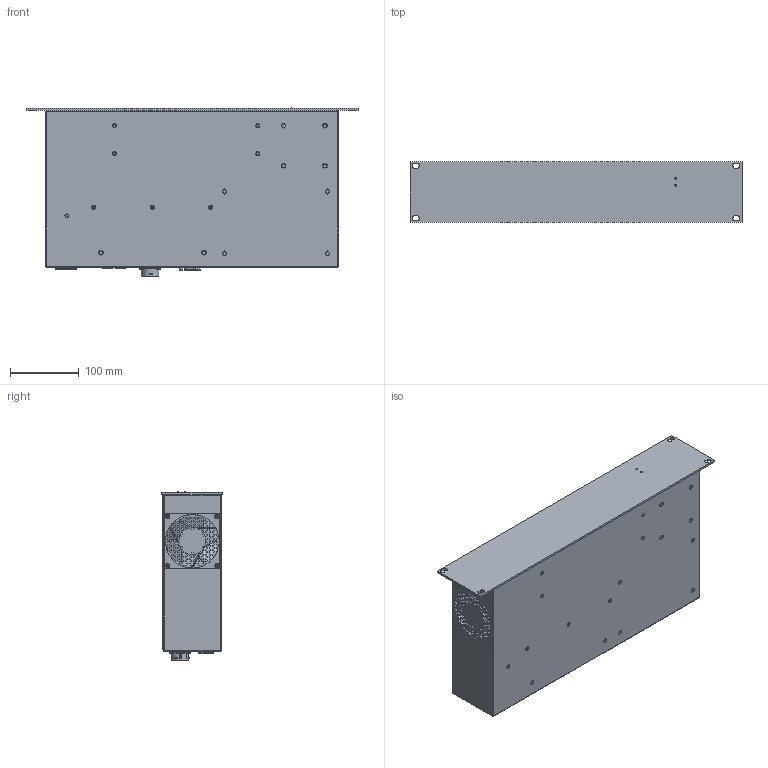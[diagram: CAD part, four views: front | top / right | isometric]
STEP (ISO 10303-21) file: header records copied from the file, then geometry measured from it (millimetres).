
FILE_DESCRIPTION (( 'STEP AP214' ), '1' );
FILE_NAME ('2352300003.STEP', '2020-08-11T08:32:15', ( '' ), ( '' ), 'SwSTEP 2.0', 'SolidWorks 2019', '' );
FILE_SCHEMA (( 'AUTOMOTIVE_DESIGN' ));
Length unit declared in the file: millimetre
Products named in the file (1): 2352300003
Bounding box: 482.6 x 88.1 x 244.41 mm (x, y, z)
Surface area: 680756.3 mm2 (no closed solid volume)
Topology: 0 solids, 122 shells, 2162 faces, 7898 edges, 5706 vertices
Faces by surface type: plane 1639, cylinder 310, cone 150, bspline 36, torus 27
Entity records: 113181 total; most frequent: CARTESIAN_POINT 24664, ORIENTED_EDGE 12255, DIRECTION 12193, EDGE_CURVE 7870, LINE 5747, VECTOR 5747, VERTEX_POINT 5706, AXIS2_PLACEMENT_3D 3223
